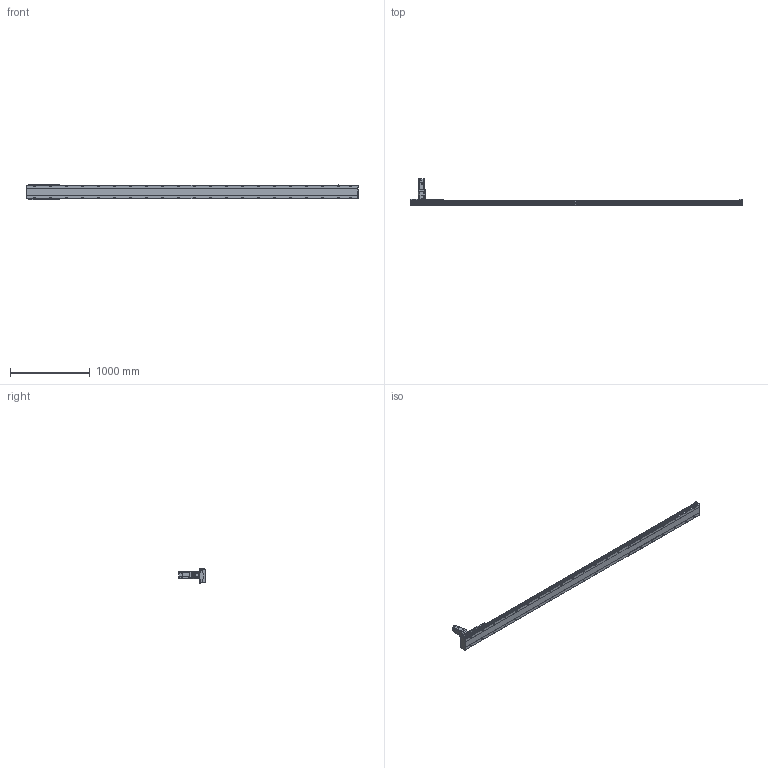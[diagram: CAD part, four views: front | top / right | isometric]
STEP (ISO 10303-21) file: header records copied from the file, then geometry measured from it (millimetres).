
FILE_DESCRIPTION(/* description */ ('STEP AP203'),/* implementation_level */ '2;1');
FILE_NAME(/* name */ 'SHS17A-L13-S3700-BC-T75-C1-N(0)',/* time_stamp */ '2023-03-27T08:58:46+02:00',/* author */ ('License CC BY-ND 4.0'),/* organization */ ('CADENAS'),/* preprocessor_version */ 'ST-DEVELOPER v19.3',/* originating_system */ 'PARTsolutions',/* authorisation */ ' ');
FILE_SCHEMA (('CONFIG_CONTROL_DESIGN'));
Length unit declared in the file: millimetre
Products named in the file (7): SHS17A-L13-S3700-BC-T75-C1-N(0); PSC140-sensor; SHS17A-S3700(0)_body2; T75-p1; SHS17A-S3700_body3; SHS17A-S3700-C1(0)_slider; SHS17A-S3700-C1(0)_body
Assembly tree (13 placements, depth 2):
  SHS17A-L13-S3700-BC-T75-C1-N(0)
    PSC140-sensor  x3
    SHS17A-S3700(0)_body2  x6
    T75-p1
    SHS17A-S3700_body3
    SHS17A-S3700-C1(0)_slider
    SHS17A-S3700-C1(0)_body
Bounding box: 4154 x 333.8 x 193.4 mm (x, y, z)
Volume: 28525417.9 mm3; surface area: 3275155.5 mm2
Topology: 13 solids, 13 shells, 2328 faces, 5936 edges, 3865 vertices
Faces by surface type: plane 1442, cylinder 787, cone 96, torus 3
Full cylindrical faces by diameter (mm): 2.8 x3, 4.134 x24, 4.5 x2, 4.6 x3, 4.917 x15, 5.5 x48, 6 x7, 6.5 x24, 6.647 x50, 6.8 x9, 8 x3, 8.5 x42, 10 x28, 11 x4, 14 x42, 22 x1, 24 x1, 24.2 x1, 28 x1, 28.2 x1, 28.8 x1, 29.8 x1, 48.542 x1, 68 x1, 70 x1, 78 x1, 80 x2
Entity records: 46710 total; most frequent: CARTESIAN_POINT 9318, DIRECTION 7573, ORIENTED_EDGE 7332, EDGE_CURVE 3666, AXIS2_PLACEMENT_3D 2700, VERTEX_POINT 2581, EDGE_LOOP 2193, FACE_BOUND 2193
